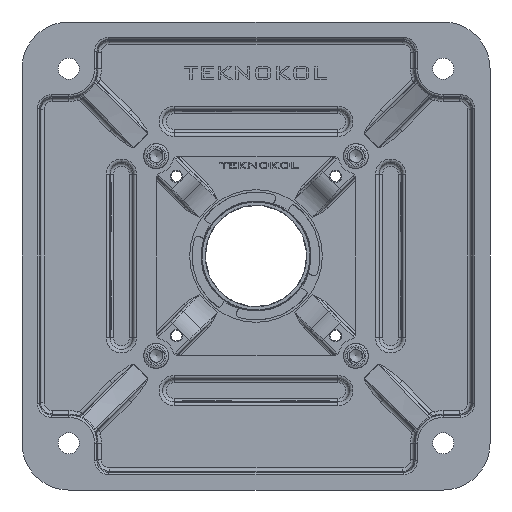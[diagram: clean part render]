
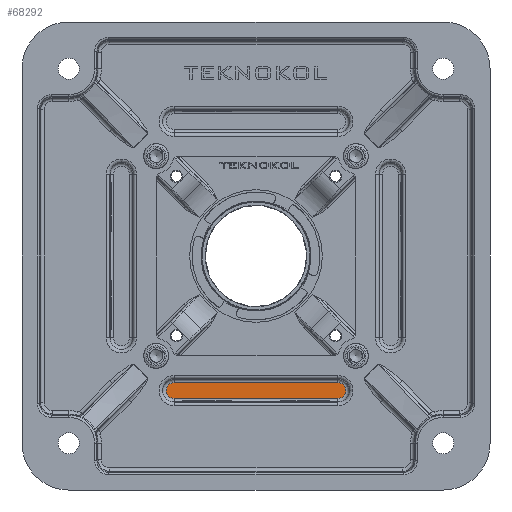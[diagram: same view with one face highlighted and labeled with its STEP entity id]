
A CAD part, front view. The second image highlights one B-rep face of the part: STEP entity #68292.
In plain terms, the highlighted planar face has unit normal (0, -1, 0).
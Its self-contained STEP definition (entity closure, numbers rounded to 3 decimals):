
#497 = PLANE ( 'NONE',  #64375 ) ;
#1558 = VERTEX_POINT ( 'NONE', #70561 ) ;
#7280 = ORIENTED_EDGE ( 'NONE', *, *, #61524, .T. ) ;
#10682 = VERTEX_POINT ( 'NONE', #45222 ) ;
#11228 = CARTESIAN_POINT ( 'NONE',  ( -69.947, -57.358, 218.8 ) ) ;
#11304 = VERTEX_POINT ( 'NONE', #54163 ) ;
#11918 = DIRECTION ( 'NONE',  ( 0., 0., -1. ) ) ;
#12149 = ORIENTED_EDGE ( 'NONE', *, *, #32580, .T. ) ;
#17440 = CARTESIAN_POINT ( 'NONE',  ( -69.947, -57.358, 213.75 ) ) ;
#20922 = VECTOR ( 'NONE', #23090, 1000. ) ;
#23090 = DIRECTION ( 'NONE',  ( -1., 0., 0. ) ) ;
#23868 = VERTEX_POINT ( 'NONE', #36779 ) ;
#27383 = EDGE_LOOP ( 'NONE', ( #27688, #7280, #12149, #75717 ) ) ;
#27688 = ORIENTED_EDGE ( 'NONE', *, *, #39243, .T. ) ;
#28665 = DIRECTION ( 'NONE',  ( 0., 0., -1. ) ) ;
#32538 = AXIS2_PLACEMENT_3D ( 'NONE', #35214, #41112, #40721 ) ;
#32580 = EDGE_CURVE ( 'NONE', #23868, #1558, #40156, .T. ) ;
#35214 = CARTESIAN_POINT ( 'NONE',  ( -69.947, -57.358, 213.75 ) ) ;
#36050 = AXIS2_PLACEMENT_3D ( 'NONE', #76388, #75233, #28665 ) ;
#36779 = CARTESIAN_POINT ( 'NONE',  ( -69.947, -57.358, 218.8 ) ) ;
#39243 = EDGE_CURVE ( 'NONE', #10682, #11304, #62496, .T. ) ;
#40156 = CIRCLE ( 'NONE', #32538, 5.05 ) ;
#40721 = DIRECTION ( 'NONE',  ( 0., 0., -1. ) ) ;
#41112 = DIRECTION ( 'NONE',  ( 0., -1., 0. ) ) ;
#42918 = DIRECTION ( 'NONE',  ( 1., 0., 0. ) ) ;
#43312 = LINE ( 'NONE', #61814, #51592 ) ;
#45222 = CARTESIAN_POINT ( 'NONE',  ( 35.053, -57.358, 208.7 ) ) ;
#51592 = VECTOR ( 'NONE', #42918, 1000. ) ;
#54163 = CARTESIAN_POINT ( 'NONE',  ( 35.053, -57.358, 218.8 ) ) ;
#54945 = DIRECTION ( 'NONE',  ( 0., -1., 0. ) ) ;
#59373 = LINE ( 'NONE', #11228, #20922 ) ;
#61524 = EDGE_CURVE ( 'NONE', #11304, #23868, #59373, .T. ) ;
#61814 = CARTESIAN_POINT ( 'NONE',  ( -69.947, -57.358, 208.7 ) ) ;
#62496 = CIRCLE ( 'NONE', #36050, 5.05 ) ;
#64375 = AXIS2_PLACEMENT_3D ( 'NONE', #17440, #54945, #11918 ) ;
#65991 = FACE_OUTER_BOUND ( 'NONE', #27383, .T. ) ;
#68292 = ADVANCED_FACE ( 'NONE', ( #65991 ), #497, .T. ) ;
#70561 = CARTESIAN_POINT ( 'NONE',  ( -69.947, -57.358, 208.7 ) ) ;
#73308 = EDGE_CURVE ( 'NONE', #1558, #10682, #43312, .T. ) ;
#75233 = DIRECTION ( 'NONE',  ( 0., -1., 0. ) ) ;
#75717 = ORIENTED_EDGE ( 'NONE', *, *, #73308, .T. ) ;
#76388 = CARTESIAN_POINT ( 'NONE',  ( 35.053, -57.358, 213.75 ) ) ;
